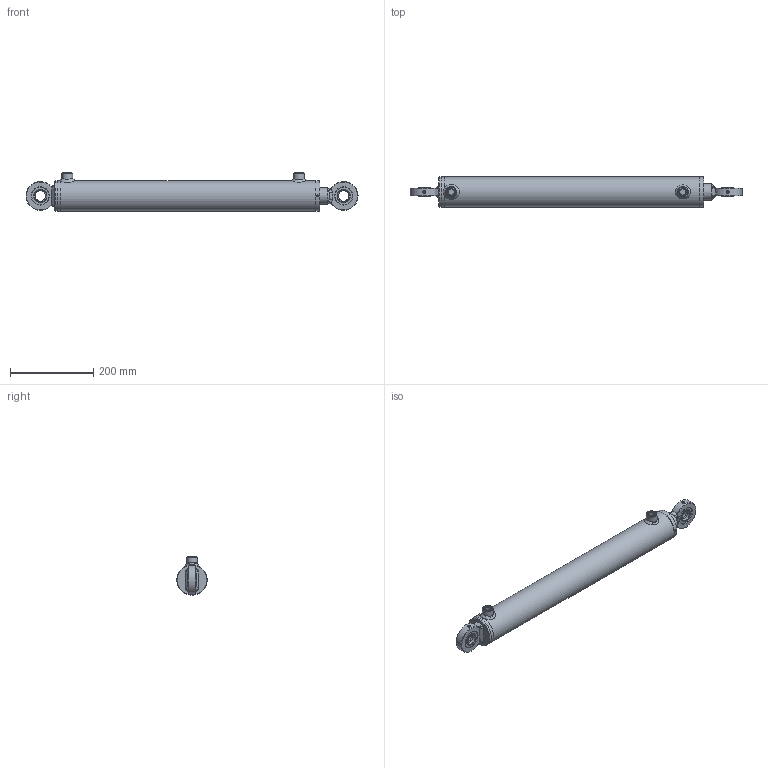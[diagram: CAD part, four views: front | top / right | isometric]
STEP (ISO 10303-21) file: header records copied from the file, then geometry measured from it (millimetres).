
FILE_DESCRIPTION( ( 'Unknown' ), '1' );
FILE_NAME( 'E:/LIBRERIA_3d/CILINDRI/HMC/HMC063400500.stp', 'Unknown', ( 'Unknown' ), ( 'Unknown' ), 'PSStep 17.0.49', 'Unknown', ' ' );
FILE_SCHEMA( ( 'AUTOMOTIVE_DESIGN { 1 0 10303 214 1 1 1 1 }' ) );
Length unit declared in the file: millimetre
Products named in the file (27): CT00063024; CG07306340; STL0630730500-oa6; Saldatura d'angolo 1-oa4; MAT_PRIMA_TUBO_FT07306300-oa5; CBSC220600; HM0063400500; Saldatura con preparazione 1-oa2; Saldatura d'angolo 1-oa3; CBS0600000; CF00063073; CDA0002420; APG0600000; SBL0400630500; CAGEG06904225; CAGE069042; cge0250000; Assem1; Saldatura d'angolo 1-oa0; Saldatura d'angolo 2-oa1
Assembly tree (20 placements, depth 4):
  Saldatura d'angolo 1-oa4
  Saldatura d'angolo 1-oa4
  Saldatura d'angolo 1-oa3
  Saldatura d'angolo 1-oa3
  Assem1
    CAGEG06904225  x2
      CAGE069042
      cge0250000
    HM0063400500
      Saldatura con preparazione 1-oa2
      Saldatura con preparazione 1-oa2
      CBS0600000
      CF00063073
      CDA0002420
      APG0600000  x2
      SBL0400630500
      CG07306340
        CG07306340
      CT00063024
        CT00063024
      STL0630730500-oa6
        MAT_PRIMA_TUBO_FT07306300-oa5
        CBSC220600
Bounding box: 798 x 73 x 92 mm (x, y, z)
Volume: 1823439.8 mm3; surface area: 478953.3 mm2
Topology: 24 solids, 24 shells, 414 faces, 922 edges, 501 vertices
Faces by surface type: bspline 164, plane 82, cylinder 79, cone 47, torus 38, sphere 4
Full cylindrical faces by diameter (mm): 2 x4, 4.25 x1, 5 x4, 6 x2, 7 x2, 14.95 x2, 16 x2, 16.6 x2, 22 x2, 23.4 x1, 24 x5, 25 x4, 26 x2, 28.5 x1, 36 x1, 40 x6, 42 x7, 43 x1, 47 x1, 48 x1, 48.6 x1, 58 x1, 58.39 x2, 61.63 x2, 62.9 x1, 63 x1, 63.8 x1, 64 x1, 64.1 x1, 65 x4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
Entity records: 17321 total; most frequent: CARTESIAN_POINT 8336, ORIENTED_EDGE 1126, DIRECTION 900, EDGE_LOOP 570, EDGE_CURVE 563, FACE_OUTER_BOUND 478, AXIS2_PLACEMENT_3D 436, VERTEX_POINT 394
